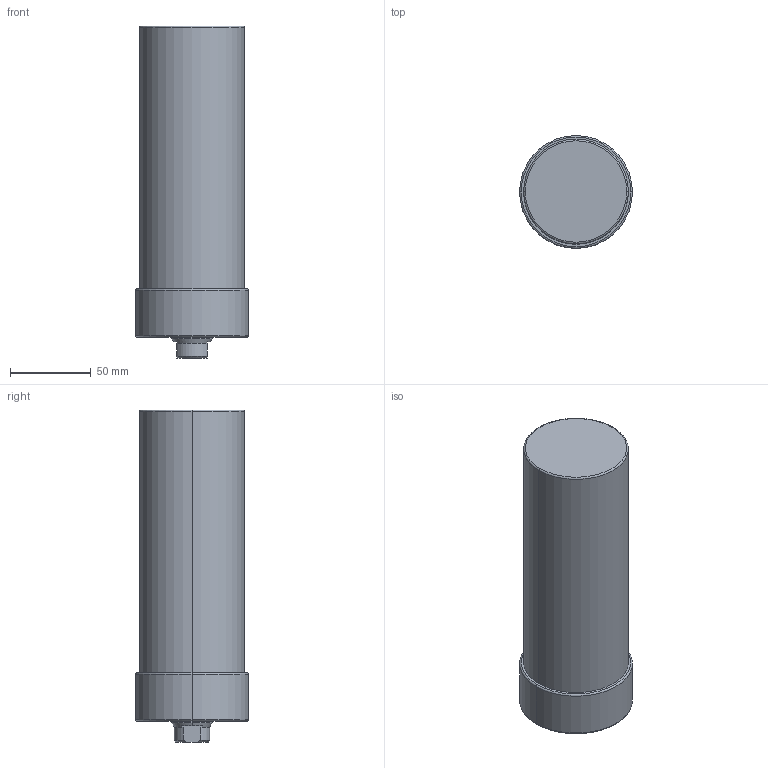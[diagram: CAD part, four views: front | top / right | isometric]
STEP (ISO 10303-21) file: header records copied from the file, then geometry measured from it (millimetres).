
FILE_DESCRIPTION (( 'STEP AP203' ), '1' );
FILE_NAME ('CLLU-065GA-130.STEP', '2020-01-07T00:13:59', ( '' ), ( '' ), 'SwSTEP 2.0', 'SolidWorks 2015', '' );
FILE_SCHEMA (( 'CONFIG_CONTROL_DESIGN' ));
Length unit declared in the file: millimetre
Products named in the file (1): CLLU-065GA-130
Bounding box: 70 x 70 x 206 mm (x, y, z)
Volume: 656772 mm3; surface area: 50309.8 mm2
Topology: 1 solids, 1 shells, 62 faces, 140 edges, 79 vertices
Faces by surface type: cone 24, cylinder 22, plane 10, torus 6
Entity records: 1751 total; most frequent: DIRECTION 320, CARTESIAN_POINT 300, ORIENTED_EDGE 260, AXIS2_PLACEMENT_3D 135, EDGE_CURVE 130, VERTEX_POINT 79, CIRCLE 72, EDGE_LOOP 71
